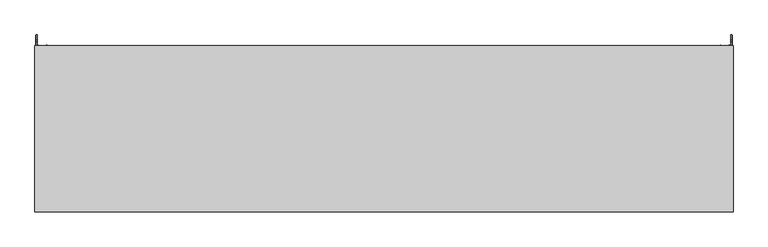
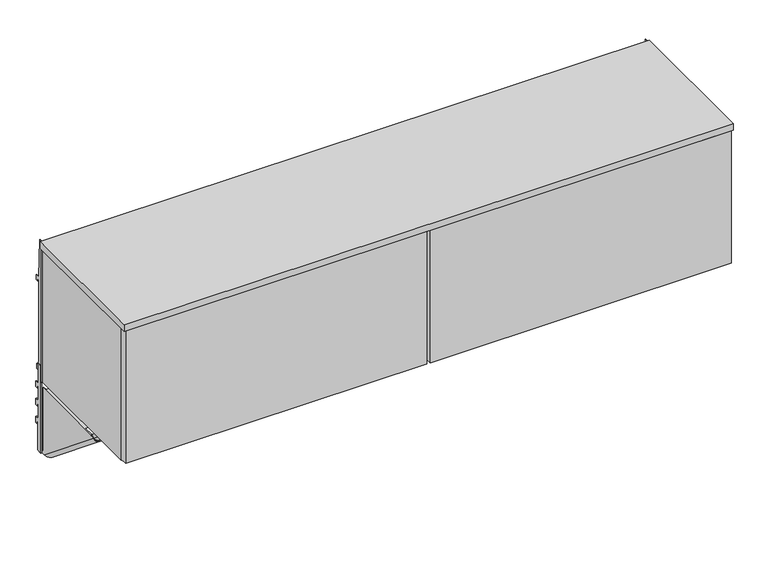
"""IFC4 building model written with IfcOpenShell, lengths in millimetres: furniture geometry, Steelcase - Universal Storage - In the Case Bin - Flat Front : For Montage - 66W."""

import ifcopenshell
import ifcopenshell.guid

model = None  # the IFC model being written
_history = None  # IfcOwnerHistory: only IFC2X3 demands one
_inside = {}  # id of a spatial element -> (the spatial element, [elements in it])
_under = {}  # id of a project, library or spatial element -> (it, [spatial elements below it])
_declared = {}  # id of a project -> (the project, [libraries it declares])
_typed = {}  # id of a type object -> (the type object, [elements of that type])
_made_of = {}  # id of a material, layer set ... -> (it, [elements and type objects made of it])


def new_model(schema):
    """Start an empty IFC model of exactly this schema.

    Asked for "IFC4X3", IfcOpenShell would pick the latest addendum, in which some entities
    have other attributes; the version numbers below select the first issue.
    IFC2X3 requires an IfcOwnerHistory on every rooted entity: one is made here for all.
    """
    global model, _history
    if schema == "IFC4X3":
        model = ifcopenshell.file(schema_version=(4, 3, 0, 0))
    else:
        model = ifcopenshell.file(schema=schema)
    _inside.clear()
    _under.clear()
    _declared.clear()
    _typed.clear()
    _made_of.clear()
    _history = None
    if model.schema == "IFC2X3":
        org = make("IfcOrganization", Name="unknown")
        user = make(
            "IfcPersonAndOrganization",
            ThePerson=make("IfcPerson", FamilyName="unknown"),
            TheOrganization=org,
        )
        app = make(
            "IfcApplication",
            ApplicationDeveloper=org,
            Version="unknown",
            ApplicationFullName="unknown",
            ApplicationIdentifier="unknown",
        )
        _history = make(
            "IfcOwnerHistory",
            OwningUser=user,
            OwningApplication=app,
            ChangeAction="ADDED",
            CreationDate=0,
        )
    return model


def make(cls, **values):
    """One entity of the class cls with the attributes given. An attribute that is None is left unset."""
    return model.create_entity(
        cls, **{name: value for name, value in values.items() if value is not None}
    )


def rooted(cls, **values):
    """An entity with a GlobalId (a new one), such as an element, a storey or a relation."""
    return make(cls, GlobalId=ifcopenshell.guid.new(), OwnerHistory=_history, **values)


def si_unit(unit_type, name, prefix=None):
    """IfcSIUnit, for example si_unit("LENGTHUNIT", "METRE", prefix="MILLI")."""
    return make("IfcSIUnit", UnitType=unit_type, Prefix=prefix, Name=name)


def assignment(units):
    """IfcUnitAssignment: the units of a project."""
    return None if units is None else make("IfcUnitAssignment", Units=units)


def point(xyz):
    """IfcCartesianPoint."""
    return None if xyz is None else make("IfcCartesianPoint", Coordinates=xyz)


def direction(xyz):
    """IfcDirection."""
    return None if xyz is None else make("IfcDirection", DirectionRatios=xyz)


def frame(location, z_axis=None, x_axis=None):
    """IfcAxis2Placement3D, a coordinate frame: its origin and axes. An axis left out is left unset."""
    return make(
        "IfcAxis2Placement3D",
        Location=point(location),
        Axis=direction(z_axis),
        RefDirection=direction(x_axis),
    )


def frame_2d(location, x_axis=None):
    """IfcAxis2Placement2D, a coordinate frame in the plane: its origin and x axis."""
    return make(
        "IfcAxis2Placement2D", Location=point(location), RefDirection=direction(x_axis)
    )


def origin():
    """The frame at (0, 0, 0) with its axes left unset."""
    return frame((0.0, 0.0, 0.0))


def place(relative_to, where):
    """IfcLocalPlacement: puts the frame where relative to a parent placement (None: the world)."""
    return make(
        "IfcLocalPlacement", PlacementRelTo=relative_to, RelativePlacement=where
    )


def context(
    kind, dimensions, precision=None, world=None, true_north=None, identifier=None
):
    """IfcGeometricRepresentationContext, for example the 3D "Model" context."""
    return make(
        "IfcGeometricRepresentationContext",
        ContextIdentifier=identifier,
        ContextType=kind,
        CoordinateSpaceDimension=dimensions,
        Precision=precision,
        WorldCoordinateSystem=world,
        TrueNorth=true_north,
    )


def project(units=None, contexts=None):
    """IfcProject with its units and contexts."""
    return rooted(
        "IfcProject",
        Name="project",
        RepresentationContexts=contexts,
        UnitsInContext=assignment(units),
    )


def spatial(cls, under=None, at=None, **own):
    """A site, building, storey or space (cls), placed at a placement, below another one or the project."""
    s = rooted(cls, ObjectPlacement=at, **own)
    if under is not None:
        _under.setdefault(under.id(), (under, []))[1].append(s)
    return s


def polyline(points):
    """IfcPolyline through the points."""
    return make("IfcPolyline", Points=[point(p) for p in points])


def circle_curve(where, radius):
    """IfcCircle in the frame where."""
    return make("IfcCircle", Position=where, Radius=radius)


def ellipse_curve(where, semi_axis1, semi_axis2):
    """IfcEllipse in the frame where."""
    return make(
        "IfcEllipse", Position=where, SemiAxis1=semi_axis1, SemiAxis2=semi_axis2
    )


def trimmed(basis, trim1, trim2, sense, master):
    """IfcTrimmedCurve: the piece of a basis curve between two trims."""
    return make(
        "IfcTrimmedCurve",
        BasisCurve=basis,
        Trim1=trim1,
        Trim2=trim2,
        SenseAgreement=sense,
        MasterRepresentation=master,
    )


def segment(curve, same_sense, transition):
    """IfcCompositeCurveSegment."""
    return make(
        "IfcCompositeCurveSegment",
        Transition=transition,
        SameSense=same_sense,
        ParentCurve=curve,
    )


def composite_curve(segments, self_intersect=None):
    """IfcCompositeCurve: segments joined end to end."""
    return make("IfcCompositeCurve", Segments=segments, SelfIntersect=self_intersect)


def outline(outer, holes=None, kind="AREA"):
    """IfcArbitraryClosedProfileDef: a profile drawn as a closed curve; with holes, ...WithVoids."""
    if holes is None:
        return make("IfcArbitraryClosedProfileDef", ProfileType=kind, OuterCurve=outer)
    return make(
        "IfcArbitraryProfileDefWithVoids",
        ProfileType=kind,
        OuterCurve=outer,
        InnerCurves=holes,
    )


def extrude(swept, where, along, depth):
    """IfcExtrudedAreaSolid: the profile swept, set in the frame where, extruded along a direction by depth."""
    return make(
        "IfcExtrudedAreaSolid",
        SweptArea=swept,
        Position=where,
        ExtrudedDirection=direction(along),
        Depth=depth,
    )


def faces_of(points, faces, orient=None, outer=None):
    """IfcFace entities. A face is a list of loops; a loop is a list of indices into points, from 0.

    orient and outer hold one flag for each loop. By default every Orientation is true, the
    first loop of a face is its IfcFaceOuterBound and the others are IfcFaceBound.
    """
    made = []
    for i, loops in enumerate(faces):
        bounds = []
        for j, loop in enumerate(loops):
            is_outer = j == 0 if outer is None else outer[i][j]
            bounds.append(
                make(
                    "IfcFaceOuterBound" if is_outer else "IfcFaceBound",
                    Bound=make("IfcPolyLoop", Polygon=[points[k] for k in loop]),
                    Orientation=True if orient is None else orient[i][j],
                )
            )
        made.append(make("IfcFace", Bounds=bounds))
    return made


def faceted_brep(points, faces, orient=None, outer=None, voids=None):
    """IfcFacetedBrep: a solid bounded by flat faces; with voids (closed shells), ...WithVoids."""
    shared = [point(p) for p in points]
    hull = make("IfcClosedShell", CfsFaces=faces_of(shared, faces, orient, outer))
    if voids is None:
        return make("IfcFacetedBrep", Outer=hull)
    return make(
        "IfcFacetedBrepWithVoids",
        Outer=hull,
        Voids=[
            make(cls, CfsFaces=faces_of(shared, fs, o, b)) for cls, fs, o, b in voids
        ],
    )


def shape(context_of_items, identifier, shape_type, items):
    """IfcShapeRepresentation: the items that make up one representation, for example the "Body"."""
    return make(
        "IfcShapeRepresentation",
        ContextOfItems=context_of_items,
        RepresentationIdentifier=identifier,
        RepresentationType=shape_type,
        Items=items,
    )


def source(mapping_origin, context_of_items, identifier, shape_type, items):
    """IfcRepresentationMap: a shape defined once, which mapped items show again and again."""
    return make(
        "IfcRepresentationMap",
        MappingOrigin=mapping_origin,
        MappedRepresentation=shape(context_of_items, identifier, shape_type, items),
    )


def transform(
    local_origin,
    x_axis=None,
    y_axis=None,
    z_axis=None,
    scale=None,
    scale2=None,
    scale3=None,
    uniform=True,
):
    """IfcCartesianTransformationOperator3D, or its non-uniform kind. x_axis, y_axis, z_axis: its Axis1, 2, 3."""
    if uniform:
        return make(
            "IfcCartesianTransformationOperator3D",
            Axis1=direction(x_axis),
            Axis2=direction(y_axis),
            LocalOrigin=point(local_origin),
            Scale=scale,
            Axis3=direction(z_axis),
        )
    return make(
        "IfcCartesianTransformationOperator3DnonUniform",
        Axis1=direction(x_axis),
        Axis2=direction(y_axis),
        LocalOrigin=point(local_origin),
        Scale=scale,
        Axis3=direction(z_axis),
        Scale2=scale2,
        Scale3=scale3,
    )


def mapped(mapping_source, mapping_target):
    """IfcMappedItem: shows the shape of a source again, moved by a transform."""
    return make(
        "IfcMappedItem", MappingSource=mapping_source, MappingTarget=mapping_target
    )


def made_of(thing, what):
    """Note that an element or type object is made of a material, layer set ...; save() writes the relation."""
    if what is not None:
        _made_of.setdefault(what.id(), (what, []))[1].append(thing)
    return thing


def element(
    cls,
    number,
    at=None,
    inside=None,
    cuts=None,
    type_object=None,
    material=None,
    context=None,
    identifier="Body",
    shape_type=None,
    held_by="IfcProductDefinitionShape",
    body=None,
    shapes=None,
    **own,
):
    """One element of the class cls, such as IfcWall. Its Tag is "e" and its number.

    at: its placement. inside: the storey or other place that contains it. cuts: it is an
    opening in that element (IfcRelVoidsElement). A single representation is given by context,
    identifier, shape_type and body (its items); several are given by shapes. held_by: the class
    of the entity that holds the representations. save() writes the other relations.
    """
    e = rooted(cls, Tag="e%d" % number, ObjectPlacement=at, **own)
    if body is not None:
        shapes = [shape(context, identifier, shape_type, body)]
    if shapes is not None:
        e.Representation = make(held_by, Representations=shapes)
    if inside is not None:
        _inside.setdefault(inside.id(), (inside, []))[1].append(e)
    if cuts is not None:
        rooted(
            "IfcRelVoidsElement", RelatingBuildingElement=cuts, RelatedOpeningElement=e
        )
    if type_object is not None:
        _typed.setdefault(type_object.id(), (type_object, []))[1].append(e)
    return made_of(e, material)


def aggregate(whole, parts):
    """IfcRelAggregates: a whole, such as a stair, and the parts it consists of."""
    return rooted("IfcRelAggregates", RelatingObject=whole, RelatedObjects=parts)


def save(model, path):
    """Write the relations noted so far, then the file.

    IfcRelAggregates (storeys below a building ...), IfcRelContainedInSpatialStructure (elements
    in a storey), IfcRelDefinesByType, IfcRelAssociatesMaterial and IfcRelDeclares: one each for
    every whole, place, type object, material and project.
    """
    for whole, parts in _under.values():
        aggregate(whole, parts)
    for where, things in _inside.values():
        rooted(
            "IfcRelContainedInSpatialStructure",
            RelatedElements=things,
            RelatingStructure=where,
        )
    for kind, things in _typed.values():
        rooted("IfcRelDefinesByType", RelatedObjects=things, RelatingType=kind)
    for what, things in _made_of.values():
        rooted("IfcRelAssociatesMaterial", RelatedObjects=things, RelatingMaterial=what)
    for by, libraries in _declared.values():
        rooted("IfcRelDeclares", RelatingContext=by, RelatedDefinitions=libraries)
    model.write(path)


def plane_surface(at):
    """IfcPlane: the flat surface through the origin of the frame at, square to its z axis."""
    return make("IfcPlane", Position=at)


def cylinder_surface(at, radius):
    """IfcCylindricalSurface: all points at the distance radius from the z axis of the frame at."""
    return make("IfcCylindricalSurface", Position=at, Radius=radius)


def revolved_surface(curve, axis_point, axis_direction):
    """IfcSurfaceOfRevolution: the curve turned about the line through axis_point along axis_direction."""
    return make(
        "IfcSurfaceOfRevolution",
        SweptCurve=make("IfcArbitraryOpenProfileDef", ProfileType="CURVE", Curve=curve),
        AxisPosition=make("IfcAxis1Placement", Location=point(axis_point), Axis=direction(axis_direction)),
    )


def advanced_brep(points, edges, surfaces, faces):
    """IfcAdvancedBrep: a solid bounded by faces that lie on surfaces and meet in shared edges.

    An edge is (start, end): straight between two places in points (the first is 0);
    or (start, end, curve); or (start, end, curve, False) where it runs against its curve.
    A face is (place in surfaces, loops), or (place, loops, False) where it looks against
    its surface's normal. A loop lists edges by number (the first is 1), with a minus sign
    where the edge is run from its end to its start. The first loop is the outer one.
    """
    corners = [point(p) for p in points]
    vertices = [make("IfcVertexPoint", VertexGeometry=c) for c in corners]
    made = []
    for start, end, *more in edges:
        made.append(
            make(
                "IfcEdgeCurve",
                EdgeStart=vertices[start],
                EdgeEnd=vertices[end],
                EdgeGeometry=more[0] if more else make("IfcPolyline", Points=[corners[start], corners[end]]),
                SameSense=more[1] if len(more) > 1 else True,
            )
        )
    hull = []
    for where, loops, *sense in faces:
        bounds = []
        for j, loop in enumerate(loops):
            ring = [make("IfcOrientedEdge", EdgeElement=made[abs(k) - 1], Orientation=k > 0) for k in loop]
            bounds.append(
                make(
                    "IfcFaceOuterBound" if j == 0 else "IfcFaceBound",
                    Bound=make("IfcEdgeLoop", EdgeList=ring),
                    Orientation=True,
                )
            )
        hull.append(make("IfcAdvancedFace", Bounds=bounds, FaceSurface=surfaces[where], SameSense=sense[0] if sense else True))
    return make("IfcAdvancedBrep", Outer=make("IfcClosedShell", CfsFaces=hull))


def furniture_a7d438db(model_context):
    return source(origin(), model_context, "Body", "SolidModel", [
        extrude(outline(polyline([(14.7026351, 1295.4127), (14.7026351, 1236.5862384), (24.9864881, 1236.5862384), (24.9864881, 1220.7113353), (18.8396885, 1220.7113353), (18.8396885, 1227.061311), (14.7756879, 1227.061311), (14.7756879, 1186.6498969), (24.9864881, 1186.6498969), (24.9864881, 1168.3872762), (18.8396885, 1168.3872762), (18.8396885, 1174.7373246), (14.7756879, 1174.7373246), (14.7756879, 1134.3259105), (24.9864881, 1134.3259105), (24.9864881, 1116.0632897), (21.4050888, 1116.0632897), (21.4050888, 1122.4132655), (17.3410881, 1122.4132655), (17.3410881, 1040.9809), (1.1327479, 1040.9809), (1.1327479, 1295.4127), (14.7026351, 1295.4127)])), frame((2.1844, 0.0, 0.0), z_axis=(1.0, 0.0, 0.0), x_axis=(0.0, 1.0, 0.0)), (0.0, 0.0, 1.0), 1.905),
        extrude(outline(polyline([(14.7026351, 1295.4127), (14.7026351, 1236.5862384), (24.9864881, 1236.5862384), (24.9864881, 1220.7113353), (18.8396885, 1220.7113353), (18.8396885, 1227.061311), (14.7756879, 1227.061311), (14.7756879, 1186.6498969), (24.9864881, 1186.6498969), (24.9864881, 1168.3872762), (18.8396885, 1168.3872762), (18.8396885, 1174.7373246), (14.7756879, 1174.7373246), (14.7756879, 1134.3259105), (24.9864881, 1134.3259105), (24.9864881, 1116.0632897), (21.4050888, 1116.0632897), (21.4050888, 1122.4132655), (17.3410881, 1122.4132655), (17.3410881, 1040.9809), (1.1327479, 1040.9809), (1.1327479, 1295.4127), (14.7026351, 1295.4127)])), frame((1672.3106, 0.0, 0.0), z_axis=(1.0, 0.0, 0.0), x_axis=(0.0, 1.0, 0.0)), (0.0, 0.0, 1.0), 1.905),
        advanced_brep(
        [(1647.3424, -230.0833372, 1233.8431), (1647.3424, 1.1327479, 1046.6079738), (1645.2342, 1.1327479, 1046.6079738), (1645.2342, -230.0833372, 1233.8431), (1645.2342, 1.1327479, 1040.9809), (1645.2342, -7.7654502, 1040.9809), (1645.2342, -240.6555763, 1229.5716381), (1668.5006, -7.7654502, 1040.9809), (1668.5006, -240.6555763, 1229.5716381), (1668.5006, 1.1327479, 1040.9809), (1668.5006, 1.1327479, 1046.6079738), (1668.5006, -3.080512, 1050.019805), (1668.5006, -3.080512, 1233.8431), (1668.5006, -230.0833372, 1233.8431), (1666.3924009, 1.1327479, 1046.6079738), (1666.3924009, -3.080512, 1050.019805), (1666.3924009, -7.7654502, 1040.9809), (1666.3924009, -240.6555763, 1229.5716381), (1666.3924009, -230.0833372, 1233.8431), (1666.3924009, -200.311512, 1233.8431), (1666.3924009, -200.311512, 1233.0049163), (1666.3924009, -14.0787123, 1233.0049163), (1666.3924009, -14.0787123, 1233.8431), (1666.3924009, -3.080512, 1233.8431), (1666.3924009, 1.1327479, 1040.9809), (1647.3424, -7.7654502, 1040.9809), (1647.3424, -240.6555763, 1229.5716381), (1647.3424, 1.1327479, 1040.9809), (1637.4617978, -200.311512, 1233.8431), (1637.4617978, -200.311512, 1252.2581016), (1636.6236, -200.311512, 1252.2581016), (1636.6236, -200.311512, 1233.0049163), (1636.6236, -82.5825138, 1252.2581016), (1637.4617978, -82.5825138, 1252.2581016), (1637.4617978, -82.5825138, 1233.8431), (1636.6236, -82.5825138, 1233.8431), (1636.6236, -14.0787123, 1233.8431), (1636.6236, -14.0787123, 1233.0049163)],
        [
            (0, 1),
            (1, 2),
            (2, 3),
            (3, 0),
            (2, 4),
            (4, 5),
            (5, 6),
            (6, 3),
            (5, 7, ellipse_curve(frame((1656.8674, -7.7654502, 1040.9809), z_axis=(0.0, 0.0, 1.0), x_axis=(0.0, -1.0, 0.0)), 18.4853359, 11.6332)),
            (7, 8),
            (8, 6, ellipse_curve(frame((1656.8674, -240.6555763, 1229.5716381), z_axis=(0.0, 0.374606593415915, -0.9271838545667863), x_axis=(0.0, -0.9271838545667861, -0.3746065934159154)), 13.3008659, 11.6332)),
            (7, 9),
            (9, 10),
            (10, 11),
            (11, 12),
            (12, 13),
            (13, 8),
            (10, 14),
            (14, 15),
            (15, 11),
            (16, 17),
            (17, 18),
            (18, 19),
            (19, 20),
            (20, 21),
            (21, 22),
            (22, 23),
            (23, 15),
            (14, 24),
            (24, 16),
            (16, 25, ellipse_curve(frame((1656.8674005, -7.7654502, 1040.9809), z_axis=(0.0, 0.0, -1.0), x_axis=(0.0, 1.0, 0.0)), 15.135374, 9.5250005)),
            (25, 26),
            (26, 17, ellipse_curve(frame((1656.8674005, -240.6555763, 1229.5716381), z_axis=(0.0, -0.374606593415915, 0.9271838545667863), x_axis=(0.0, 0.9271838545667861, 0.3746065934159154)), 10.8904475, 9.5250005)),
            (0, 26),
            (25, 27),
            (27, 1),
            (13, 18),
            (24, 9),
            (4, 27),
            (28, 29),
            (29, 30),
            (30, 31),
            (31, 20),
            (19, 28),
            (32, 33),
            (33, 34),
            (34, 35),
            (35, 32),
            (35, 36),
            (36, 37),
            (37, 31),
            (30, 32),
            (28, 34),
            (33, 29),
            (36, 22),
            (21, 37),
            (12, 23),
        ],
        [
            plane_surface(frame((1647.3424, -241.2702093, 1242.902052), z_axis=(0.0, 0.6293204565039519, 0.7771459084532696), x_axis=(0.0, 0.7771459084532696, -0.6293204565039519))),
            plane_surface(frame((1645.2342, -241.2702093, 1242.902052), z_axis=(-1.0, 0.0, -1.0336974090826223e-12), x_axis=(0.0, 0.7771459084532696, -0.6293204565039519))),
            cylinder_surface(frame((1656.8674, 5.728998, 1030.0533094), z_axis=(0.0, -0.7771459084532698, 0.6293204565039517), x_axis=(0.0, 0.6293204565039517, 0.7771459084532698)), 11.6332),
            plane_surface(frame((1668.5006, -247.5463438, 1235.1516726), z_axis=(1.0, 0.0, 0.0), x_axis=(0.0, 0.7771459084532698, -0.6293204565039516))),
            plane_surface(frame((1668.5006, -241.2702093, 1242.902052), z_axis=(0.0, 0.6293204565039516, 0.7771459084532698), x_axis=(0.0, 0.7771459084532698, -0.6293204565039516))),
            plane_surface(frame((1666.3924009, -241.2702093, 1242.902052), z_axis=(-1.0, 0.0, 0.0), x_axis=(0.0, 0.7771459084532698, -0.6293204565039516))),
            revolved_surface(polyline([(1656.8674005, 7.3699238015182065, 1040.980900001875), (1656.8674005, -238.76446812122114, 1240.2966349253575)]), (1656.8674005, 5.728998, 1030.0533094), (0.0, 0.7771459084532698, -0.6293204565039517)),
            plane_surface(frame((1647.3424, -247.5463438, 1235.1516726), z_axis=(1.0, 0.0, 0.0), x_axis=(0.0, 0.7771459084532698, -0.6293204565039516))),
            plane_surface(frame((1676.4, -257.2236519, 1222.8777011), z_axis=(0.0, -0.374606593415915, 0.9271838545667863), x_axis=(-1.0, 0.0, 0.0))),
            plane_surface(frame((1676.4, 1.1327479, 1040.9809), z_axis=(0.0, 0.0, -1.0), x_axis=(-1.0, 0.0, 0.0))),
            plane_surface(frame((1676.4, 1.1327479, 1053.6809), z_axis=(0.0, 1.0, 0.0), x_axis=(-1.0, 0.0, 0.0))),
            plane_surface(frame((1636.6236, -200.311512, 1252.2581016), z_axis=(0.0, -1.0, 0.0), x_axis=(0.0, 0.0, -1.0))),
            plane_surface(frame((1636.6236, -82.5825138, 1252.2581016), z_axis=(0.0, 1.0, 0.0), x_axis=(0.0, 0.0, 1.0))),
            plane_surface(frame((1636.6236, -200.311512, 1252.2581016), z_axis=(-1.0, 0.0, 0.0), x_axis=(0.0, 1.0, 0.0))),
            plane_surface(frame((1637.4617978, -200.311512, 1233.8431), z_axis=(1.0, 0.0, 0.0), x_axis=(0.0, 1.0, 0.0))),
            plane_surface(frame((1637.4617978, -200.311512, 1252.2581016), z_axis=(0.0, 0.0, 1.0), x_axis=(0.0, 1.0, 0.0))),
            plane_surface(frame((1636.6236, -14.0787123, 1233.8431), z_axis=(0.0, 1.0, 0.0), x_axis=(0.0, 0.0, 1.0))),
            plane_surface(frame((1636.6236, -200.311512, 1233.0049163), z_axis=(0.0, 0.0, -1.0), x_axis=(0.0, 1.0, 0.0))),
            plane_surface(frame((1668.5006, -200.311512, 1233.8431), z_axis=(0.0, 0.0, 1.0), x_axis=(0.0, 1.0, 0.0))),
            plane_surface(frame((1668.5006, -3.080512, 1050.019805), z_axis=(0.0, 1.0, 0.0), x_axis=(-1.0, 0.0, 0.0))),
        ],
        [
            (0, [[1, 2, 3, 4]]),
            (1, [[-3, 5, 6, 7, 8]]),
            (2, [[-7, 9, 10, 11]]),
            (3, [[-10, 12, 13, 14, 15, 16, 17]]),
            (4, [[18, 19, 20, -14]]),
            (5, [[21, 22, 23, 24, 25, 26, 27, 28, -19, 29, 30]]),
            (6, [[-21, 31, 32, 33]]),
            (7, [[-1, 34, -32, 35, 36]]),
            (8, [[-4, -8, -11, -17, 37, -22, -33, -34]]),
            (9, [[38, -12, -9, -6, 39, -35, -31, -30]]),
            (10, [[-38, -29, -18, -13]]),
            (10, [[-39, -5, -2, -36]]),
            (11, [[40, 41, 42, 43, -24, 44]]),
            (12, [[45, 46, 47, 48]]),
            (13, [[-48, 49, 50, 51, -42, 52]]),
            (14, [[-40, 53, -46, 54]]),
            (15, [[-41, -54, -45, -52]]),
            (16, [[-50, 55, -26, 56]]),
            (17, [[-51, -56, -25, -43]]),
            (18, [[57, -27, -55, -49, -47, -53, -44, -23, -37, -16]]),
            (19, [[-15, -20, -28, -57]]),
        ],
    ),
        advanced_brep(
        [(8.1026, -3.080512, 1050.019805), (8.1026, -3.080512, 1233.8431), (8.1026, -14.0787123, 1233.8431), (8.1026, -14.0787123, 1233.0049163), (8.1026, -200.311512, 1233.0049163), (8.1026, -200.311512, 1233.8431), (8.1026, -230.0833372, 1233.8431), (8.1026, -240.6555763, 1229.5716381), (8.1026, -7.7654502, 1040.9809), (8.1026, 1.1327479, 1040.9809), (8.1026, 1.1327479, 1046.6079738), (5.9944, -3.080512, 1233.8431), (5.9944, -3.080512, 1050.019805), (5.9944, 1.1327479, 1046.6079738), (5.9944, 1.1327479, 1040.9809), (5.9944, -7.7654502, 1040.9809), (5.9944, -240.6555763, 1229.5716381), (5.9944, -230.0833372, 1233.8431), (39.5732022, -200.311512, 1233.8431), (39.5732022, -82.5825138, 1233.8431), (40.4114, -82.5825138, 1233.8431), (40.4114, -14.0787123, 1233.8431), (29.2608, -7.7654502, 1040.9809), (29.2608, -240.6555763, 1229.5716381), (29.2608, 1.1327479, 1040.9809), (29.2608, 1.1327479, 1046.6079738), (29.2608, -230.0833372, 1233.8431), (27.1526009, 1.1327479, 1046.6079738), (27.1526009, -230.0833372, 1233.8431), (27.1526009, 1.1327479, 1040.9809), (27.1526009, -7.7654502, 1040.9809), (27.1526009, -240.6555763, 1229.5716381), (40.4114, -200.311512, 1233.0049163), (40.4114, -200.311512, 1252.2581016), (39.5732022, -200.311512, 1252.2581016), (40.4114, -14.0787123, 1233.0049163), (40.4114, -82.5825138, 1252.2581016), (39.5732022, -82.5825138, 1252.2581016)],
        [
            (0, 1),
            (1, 2),
            (2, 3),
            (3, 4),
            (4, 5),
            (5, 6),
            (6, 7),
            (7, 8),
            (8, 9),
            (9, 10),
            (10, 0),
            (11, 12),
            (12, 13),
            (13, 14),
            (14, 15),
            (15, 16),
            (16, 17),
            (17, 11),
            (17, 6),
            (5, 18),
            (18, 19),
            (19, 20),
            (20, 21),
            (21, 2),
            (1, 11),
            (0, 12),
            (10, 13),
            (15, 22, ellipse_curve(frame((17.6276, -7.7654502, 1040.9809), z_axis=(0.0, 0.0, 1.0), x_axis=(0.0, -1.0, 0.0)), 18.4853359, 11.6332)),
            (22, 23),
            (23, 16, ellipse_curve(frame((17.6276, -240.6555763, 1229.5716381), z_axis=(0.0, 0.374606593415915, -0.9271838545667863), x_axis=(0.0, -0.9271838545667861, -0.3746065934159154)), 13.3008659, 11.6332)),
            (22, 24),
            (24, 25),
            (25, 26),
            (26, 23),
            (25, 27),
            (27, 28),
            (28, 26),
            (27, 29),
            (29, 30),
            (30, 31),
            (31, 28),
            (7, 31, ellipse_curve(frame((17.6276005, -240.6555763, 1229.5716381), z_axis=(0.0, -0.374606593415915, 0.9271838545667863), x_axis=(0.0, 0.9271838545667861, 0.3746065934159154)), 10.8904475, 9.5250005)),
            (30, 8, ellipse_curve(frame((17.6276005, -7.7654502, 1040.9809), z_axis=(0.0, 0.0, -1.0), x_axis=(0.0, 1.0, 0.0)), 15.135374, 9.5250005)),
            (14, 9),
            (29, 24),
            (4, 32),
            (32, 33),
            (33, 34),
            (34, 18),
            (21, 35),
            (35, 3),
            (35, 32),
            (20, 36),
            (36, 33),
            (19, 37),
            (37, 36),
            (37, 34),
        ],
        [
            plane_surface(frame((8.1026, -230.0833372, 1233.8431), z_axis=(1.0, 0.0, 0.0), x_axis=(0.0, -1.0, 0.0))),
            plane_surface(frame((5.9944, -230.0833372, 1233.8431), z_axis=(-1.0, 0.0, 0.0), x_axis=(0.0, 1.0, 0.0))),
            plane_surface(frame((8.1026, -3.080512, 1233.8431), z_axis=(0.0, 0.0, 1.0), x_axis=(-1.0, 0.0, 0.0))),
            plane_surface(frame((8.1026, -3.080512, 1050.019805), z_axis=(0.0, 1.0, 0.0), x_axis=(-1.0, 0.0, 0.0))),
            plane_surface(frame((8.1026, -241.2702093, 1242.902052), z_axis=(0.0, 0.6293204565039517, 0.7771459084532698), x_axis=(0.0, 0.7771459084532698, -0.6293204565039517))),
            cylinder_surface(frame((17.6276, 5.728998, 1030.0533094), z_axis=(0.0, -0.7771459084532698, 0.6293204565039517), x_axis=(1.0, 0.0, 0.0)), 11.6332),
            plane_surface(frame((29.2608, -247.5463438, 1235.1516726), z_axis=(1.0000000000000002, 0.0, 0.0), x_axis=(0.0, 0.7771459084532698, -0.6293204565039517))),
            plane_surface(frame((29.2608, -241.2702093, 1242.902052), z_axis=(0.0, 0.6293204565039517, 0.7771459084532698), x_axis=(0.0, 0.7771459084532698, -0.6293204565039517))),
            plane_surface(frame((27.1526009, -241.2702093, 1242.902052), z_axis=(-1.0000000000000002, 0.0, 0.0), x_axis=(0.0, 0.7771459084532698, -0.6293204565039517))),
            revolved_surface(polyline([(27.152601, 1.375646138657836, 1033.5785848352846), (27.152601, -244.75874578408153, 1232.8943197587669)]), (17.6276005, 5.728998, 1030.0533094), (0.0, 0.7771459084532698, -0.6293204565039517)),
            plane_surface(frame((1676.4, -257.2236519, 1222.8777011), z_axis=(0.0, -0.374606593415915, 0.9271838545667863), x_axis=(-1.0, 0.0, 0.0))),
            plane_surface(frame((1676.4, 1.1327479, 1040.9809), z_axis=(0.0, 0.0, -1.0), x_axis=(-1.0, 0.0, 0.0))),
            plane_surface(frame((1676.4, 1.1327479, 1053.6809), z_axis=(0.0, 1.0, 0.0), x_axis=(-1.0, 0.0, 0.0))),
            plane_surface(frame((10.5986151, -200.311512, 1233.8431), z_axis=(0.0, -1.0, 0.0), x_axis=(-1.0, 0.0, 0.0))),
            plane_surface(frame((10.5986151, -14.0787123, 1233.8431), z_axis=(0.0, 1.0, 0.0), x_axis=(1.0, 0.0, 0.0))),
            plane_surface(frame((8.1026, -200.311512, 1233.0049163), z_axis=(0.0, 0.0, -1.0), x_axis=(0.0, 1.0, 0.0))),
            plane_surface(frame((40.4114, -200.311512, 1233.0049163), z_axis=(1.0, 0.0, 0.0), x_axis=(0.0, 1.0, 0.0))),
            plane_surface(frame((38.1509305, -82.5825138, 1252.2581016), z_axis=(0.0, 1.0, 0.0), x_axis=(1.0, 0.0, 0.0))),
            plane_surface(frame((40.4114, -200.311512, 1252.2581016), z_axis=(0.0, 0.0, 1.0), x_axis=(0.0, 1.0, 0.0))),
            plane_surface(frame((39.5732022, -200.311512, 1252.2581016), z_axis=(-1.0, 0.0, 0.0), x_axis=(0.0, 1.0, 0.0))),
        ],
        [
            (0, [[1, 2, 3, 4, 5, 6, 7, 8, 9, 10, 11]]),
            (1, [[12, 13, 14, 15, 16, 17, 18]]),
            (2, [[-18, 19, -6, 20, 21, 22, 23, 24, -2, 25]]),
            (3, [[-1, 26, -12, -25]]),
            (4, [[-26, -11, 27, -13]]),
            (5, [[-16, 28, 29, 30]]),
            (6, [[-29, 31, 32, 33, 34]]),
            (7, [[-33, 35, 36, 37]]),
            (8, [[-36, 38, 39, 40, 41]]),
            (9, [[-8, 42, -40, 43]]),
            (10, [[-7, -19, -17, -30, -34, -37, -41, -42]]),
            (11, [[44, -9, -43, -39, 45, -31, -28, -15]]),
            (12, [[-44, -14, -27, -10]]),
            (12, [[-45, -38, -35, -32]]),
            (13, [[46, 47, 48, 49, -20, -5]]),
            (14, [[50, 51, -3, -24]]),
            (15, [[-46, -4, -51, 52]]),
            (16, [[-47, -52, -50, -23, 53, 54]]),
            (17, [[-53, -22, 55, 56]]),
            (18, [[-48, -54, -56, 57]]),
            (19, [[-49, -57, -55, -21]]),
        ],
    ),
        faceted_brep([(1657.4516023, -9.7789998, 1640.3955), (1657.4516023, -9.7789998, 1652.2572326), (1657.4516023, -10.6172003, 1652.2572326), (1657.4516023, -10.6172003, 1639.557281), (1657.4516023, -0.8382, 1639.557281), (1657.4516023, -0.8382266, 1640.3955), (17.0434001, -9.7789998, 1640.3955), (17.0434001, -0.8382, 1640.3955), (17.0434001, -0.8382011, 1639.557281), (17.0434001, -10.6172003, 1639.557281), (17.0434001, -10.6172003, 1652.2572326), (17.0434001, -9.7789998, 1652.2572326), (1660.0837557, -30.9238769, 1640.3955), (1660.9187599, -30.850824, 1640.3955), (1658.2930117, -0.8382, 1640.3955), (1672.3106, -0.8382, 1640.3955), (1672.3106, 0.1784978, 1640.3955), (2.1844, 0.1784978, 1640.3955), (2.1844, -0.8382, 1640.3955), (16.2019988, -0.8382, 1640.3955), (13.5762335, -30.850824, 1640.3955), (14.4176356, -30.850824, 1640.3955), (1672.3106, 0.1784978, 1247.9655), (1672.3106, -0.8382, 1247.9655), (1658.2930117, -0.8382, 1247.9655), (1660.9187599, -30.850824, 1247.9655), (1660.0837557, -30.9238769, 1247.9655), (1657.4516, -0.8382, 1247.9655), (17.0434002, -0.8382, 1247.9655), (14.4176356, -30.850824, 1247.9655), (13.5762335, -30.850824, 1247.9655), (16.2019988, -0.8382, 1247.9655), (2.1844, -0.8382, 1247.9655), (2.1844, 0.1784978, 1247.9655)], [[[0, 1, 2, 3, 4, 5]], [[6, 7, 8, 9, 10, 11]], [[1, 0, 6, 11]], [[2, 1, 11, 10]], [[3, 2, 10, 9]], [[4, 3, 9, 8]], [[0, 5, 12, 13, 14, 15, 16, 17, 18, 19, 20, 21, 7, 6]], [[22, 23, 24, 25, 26, 27, 28, 29, 30, 31, 32, 33]], [[17, 16, 22, 33]], [[18, 17, 33, 32]], [[19, 18, 32, 31]], [[20, 19, 31, 30]], [[21, 20, 30, 29]], [[7, 21, 29, 28, 8]], [[28, 27, 4, 8]], [[12, 5, 4, 27, 26]], [[13, 12, 26, 25]], [[14, 13, 25, 24]], [[15, 14, 24, 23]], [[16, 15, 23, 22]]]),
        faceted_brep([(1640.9415999, -61.4680004, 1256.4236903), (1640.9415999, -61.4680004, 1248.8037), (1640.9415999, -60.6298021, 1248.8037), (1640.9415999, -60.6298021, 1256.4236903), (33.5534002, -61.4680004, 1256.4236903), (33.5534002, -60.6298021, 1256.4236903), (33.5534002, -60.6298021, 1248.8037), (33.5534002, -61.468, 1248.8037), (17.0434001, -61.4680004, 1248.8037), (17.0434001, -61.4680004, 1247.9655), (1657.4516023, -61.4680004, 1247.9655), (1657.4516023, -61.4680004, 1248.8037), (1657.4516023, -0.8382, 1247.9655), (1657.4516023, -0.8382, 1248.8037), (17.0434001, -0.8382, 1248.8037), (17.0434001, -0.8382, 1247.9655)], [[[0, 1, 2, 3]], [[4, 5, 6, 7]], [[1, 0, 4, 7, 8, 9, 10, 11]], [[3, 2, 6, 5]], [[0, 3, 5, 4]], [[11, 10, 12, 13]], [[8, 14, 15, 9]], [[12, 10, 9, 15]], [[13, 12, 15, 14]], [[11, 13, 14, 8, 7, 6, 2, 1]]]),
        extrude(outline(composite_curve([segment(polyline([(-343.4401318, 1291.8437595), (-377.213238, 1291.8437595), (-377.213238, 1639.09375), (-30.850824, 1639.09375), (-30.850824, 1638.0577444), (-372.9486617, 1638.0577444)]), True, "CONTINUOUS"), segment(trimmed(circle_curve(frame_2d((-372.9486617, 1635.1839261)), 2.8738183), [point((-372.9486617, 1638.0577444))], [point((-375.82248, 1635.1839261))], True, "CARTESIAN"), True, "CONTINUOUS"), segment(polyline([(-375.82248, 1635.1839261), (-375.82248, 1292.9867129), (-343.4401318, 1292.9867129), (-343.4401318, 1291.8437595)]), True, "CONTINUOUS")], self_intersect=False)), frame((829.9266311, 0.0, 0.0), z_axis=(1.0, 0.0, 0.0), x_axis=(0.0, 1.0, 0.0)), (0.0, 0.0, 1.0), 16.5467378),
        extrude(outline(polyline([(1676.4, -399.4977324), (0.0, -399.4977324), (0.0, 0.0), (1676.4, 0.0), (1676.4, -399.4977324)])), frame((0.0, 0.0, 1639.490625), z_axis=(0.0, 0.0, 1.0), x_axis=(1.0, 0.0, 0.0)), (0.0, 0.0, 1.0), 19.05),
        extrude(outline(polyline([(4.4448587, -378.8585852), (833.628, -378.8585852), (833.628, -399.0261526), (4.4448587, -399.0261526), (4.4448587, -378.8585852)])), frame((0.0, 0.0, 1253.2134107), z_axis=(0.0, 0.0, 1.0), x_axis=(1.0, 0.0, 0.0)), (0.0, 0.0, 1.0), 386.3690475),
        extrude(outline(polyline([(842.772, -378.8585852), (1671.9703, -378.8585852), (1671.9703, -399.0261526), (842.772, -399.0261526), (842.772, -378.8585852)])), frame((0.0, 0.0, 1253.2134107), z_axis=(0.0, 0.0, 1.0), x_axis=(1.0, 0.0, 0.0)), (0.0, 0.0, 1.0), 386.3690475),
        extrude(outline(polyline([(0.0, 1657.096), (10.1677703, 1657.096), (13.3857995, 1545.8185744), (26.0095997, 1545.8185744), (26.0095997, 1532.1025512), (17.5768, 1532.1025512), (17.5768, 1537.1064608), (13.3349998, 1537.1064608), (13.3349998, 1522.6538546), (14.2747998, 1522.6538546), (14.2747998, 1296.0858527), (17.2466001, 1296.0858527), (17.2466001, 1289.7358043), (22.5806007, 1289.7358043), (22.5806007, 1274.2164027), (0.0, 1274.2164027), (0.0, 1657.096)])), frame((1670.8882, 0.0, 0.0), z_axis=(1.0, 0.0, 0.0), x_axis=(0.0, 1.0, 0.0)), (0.0, 0.0, 1.0), 1.905),
        extrude(outline(polyline([(15.875, -377.213238), (5.5118, -377.213238), (5.5118, 0.0), (15.875, 0.0), (15.875, -377.213238)])), frame((0.0, 0.0, 1247.9655), z_axis=(0.0, 0.0, 1.0), x_axis=(1.0, 0.0, 0.0)), (0.0, 0.0, 1.0), 391.2710707),
        extrude(outline(polyline([(1675.2568665, -377.213238), (1660.525, -377.213238), (1660.525, 0.0), (1675.2568665, 0.0), (1675.2568665, -377.213238)])), frame((0.0, 0.0, 1247.9655), z_axis=(0.0, 0.0, 1.0), x_axis=(1.0, 0.0, 0.0)), (0.0, 0.0, 1.0), 391.2710707),
        extrude(outline(polyline([(0.0, 1657.096), (10.1677703, 1657.096), (13.3857995, 1545.8185744), (26.0095997, 1545.8185744), (26.0095997, 1532.1025512), (17.5768, 1532.1025512), (17.5768, 1537.1064608), (13.3349998, 1537.1064608), (13.3349998, 1522.6538546), (14.2747998, 1522.6538546), (14.2747998, 1296.0858527), (17.2466001, 1296.0858527), (17.2466001, 1289.7358043), (22.5806007, 1289.7358043), (22.5806007, 1274.2164027), (0.0, 1274.2164027), (0.0, 1657.096)])), frame((3.6068, 0.0, 0.0), z_axis=(1.0, 0.0, 0.0), x_axis=(0.0, 1.0, 0.0)), (0.0, 0.0, 1.0), 1.905),
        extrude(outline(polyline([(-35.4584098, 1372.819257), (-27.0763996, 1372.819257), (-27.0763996, 1360.1191601), (-33.4264117, 1360.1191601), (-33.4264117, 1323.1622589), (-27.0763996, 1323.1622589), (-27.0763996, 1265.428), (-35.4584098, 1265.428), (-35.4584098, 1293.054213), (-46.1263996, 1293.054213), (-46.1263996, 1268.1875622), (-59.9694137, 1268.1875622), (-59.9694137, 1294.8575912), (-332.8542818, 1294.8575912), (-332.8542818, 1268.1875622), (-377.3042823, 1268.1875622), (-377.3042823, 1310.7072052), (-35.4584098, 1310.7072052), (-35.4584098, 1372.819257)])), frame((15.875, 0.0, 0.0), z_axis=(1.0, 0.0, 0.0), x_axis=(0.0, 1.0, 0.0)), (0.0, 0.0, 1.0), 1644.65),
    ])


if __name__ == "__main__":
    model = new_model("IFC4")
    model_context = context("Model", 3, world=origin())
    ifc_project = project(units=[si_unit("LENGTHUNIT", "METRE", prefix="MILLI")], contexts=[model_context])
    site = spatial("IfcSite", under=ifc_project)
    building = spatial("IfcBuilding", under=site)
    placement = place(None, origin())
    furniture_shape = furniture_a7d438db(model_context)
    element("IfcFurniture", 1, ObjectType="Steelcase - Universal Storage - In the Case Bin - Flat Front : For Montage - 66W", at=placement, inside=building, context=model_context, shape_type="MappedRepresentation", body=[
        mapped(furniture_shape, transform((0.0, 0.0, 0.0), x_axis=(1.0, 0.0, 0.0), y_axis=(0.0, 1.0, 0.0), z_axis=(0.0, 0.0, 1.0))),
    ])
    save(model, "model.ifc")
